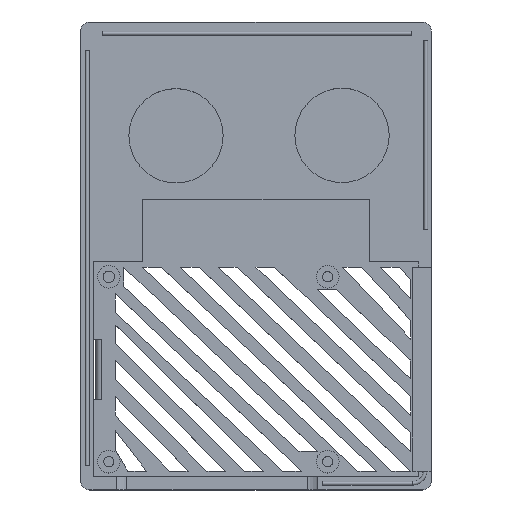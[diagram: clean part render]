
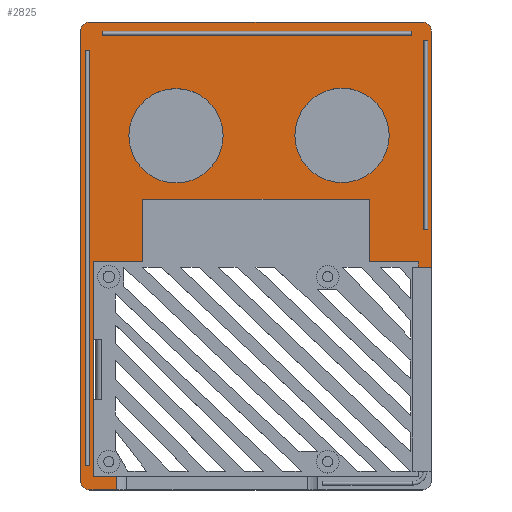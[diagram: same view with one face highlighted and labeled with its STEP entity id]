
A CAD part, top view. The second image highlights one B-rep face of the part: STEP entity #2825.
In plain terms, the highlighted planar face has unit normal (0, 0, 1).
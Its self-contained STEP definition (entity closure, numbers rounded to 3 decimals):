
#70=FACE_BOUND('',#436,.T.);
#71=FACE_BOUND('',#437,.T.);
#72=FACE_BOUND('',#438,.T.);
#73=FACE_BOUND('',#439,.T.);
#74=FACE_BOUND('',#440,.T.);
#141=CIRCLE('',#3003,2.5);
#148=CIRCLE('',#3015,2.5);
#149=CIRCLE('',#3017,12.5);
#151=CIRCLE('',#3021,12.5);
#158=CIRCLE('',#3033,2.5);
#244=FACE_OUTER_BOUND('',#435,.T.);
#435=EDGE_LOOP('',(#2178,#2179,#2180,#2181,#2182,#2183,#2184,#2185,#2186,
#2187,#2188,#2189,#2190,#2191,#2192,#2193,#2194));
#436=EDGE_LOOP('',(#2195,#2196,#2197,#2198));
#437=EDGE_LOOP('',(#2199,#2200,#2201,#2202));
#438=EDGE_LOOP('',(#2203,#2204,#2205,#2206));
#439=EDGE_LOOP('',(#2207));
#440=EDGE_LOOP('',(#2208));
#545=LINE('',#3974,#868);
#549=LINE('',#3983,#872);
#553=LINE('',#3990,#876);
#555=LINE('',#3994,#878);
#559=LINE('',#4005,#882);
#564=LINE('',#4016,#887);
#566=LINE('',#4020,#889);
#567=LINE('',#4022,#890);
#641=LINE('',#4217,#964);
#646=LINE('',#4228,#969);
#648=LINE('',#4232,#971);
#649=LINE('',#4234,#972);
#651=LINE('',#4242,#974);
#656=LINE('',#4254,#979);
#658=LINE('',#4257,#981);
#659=LINE('',#4259,#982);
#664=LINE('',#4281,#987);
#735=LINE('',#4456,#1058);
#744=LINE('',#4474,#1067);
#745=LINE('',#4476,#1068);
#746=LINE('',#4478,#1069);
#747=LINE('',#4479,#1070);
#748=LINE('',#4481,#1071);
#749=LINE('',#4483,#1072);
#750=LINE('',#4485,#1073);
#751=LINE('',#4486,#1074);
#868=VECTOR('',#3182,10.);
#872=VECTOR('',#3188,10.);
#876=VECTOR('',#3194,10.);
#878=VECTOR('',#3198,10.);
#882=VECTOR('',#3206,10.);
#887=VECTOR('',#3217,10.);
#889=VECTOR('',#3221,10.);
#890=VECTOR('',#3224,10.);
#964=VECTOR('',#3370,10.);
#969=VECTOR('',#3381,10.);
#971=VECTOR('',#3385,10.);
#972=VECTOR('',#3388,10.);
#974=VECTOR('',#3394,10.);
#979=VECTOR('',#3405,10.);
#981=VECTOR('',#3409,10.);
#982=VECTOR('',#3412,10.);
#987=VECTOR('',#3435,10.);
#1058=VECTOR('',#3568,10.);
#1067=VECTOR('',#3579,10.);
#1068=VECTOR('',#3580,10.);
#1069=VECTOR('',#3581,10.);
#1070=VECTOR('',#3582,10.);
#1071=VECTOR('',#3583,10.);
#1072=VECTOR('',#3584,10.);
#1073=VECTOR('',#3585,10.);
#1074=VECTOR('',#3586,10.);
#1191=VERTEX_POINT('',#3972);
#1192=VERTEX_POINT('',#3973);
#1195=VERTEX_POINT('',#3981);
#1196=VERTEX_POINT('',#3982);
#1199=VERTEX_POINT('',#3993);
#1203=VERTEX_POINT('',#4002);
#1204=VERTEX_POINT('',#4004);
#1207=VERTEX_POINT('',#4014);
#1208=VERTEX_POINT('',#4018);
#1292=VERTEX_POINT('',#4214);
#1293=VERTEX_POINT('',#4216);
#1296=VERTEX_POINT('',#4226);
#1297=VERTEX_POINT('',#4230);
#1300=VERTEX_POINT('',#4239);
#1301=VERTEX_POINT('',#4241);
#1304=VERTEX_POINT('',#4251);
#1305=VERTEX_POINT('',#4253);
#1306=VERTEX_POINT('',#4261);
#1307=VERTEX_POINT('',#4262);
#1313=VERTEX_POINT('',#4280);
#1315=VERTEX_POINT('',#4288);
#1316=VERTEX_POINT('',#4292);
#1318=VERTEX_POINT('',#4299);
#1327=VERTEX_POINT('',#4325);
#1328=VERTEX_POINT('',#4326);
#1394=VERTEX_POINT('',#4473);
#1395=VERTEX_POINT('',#4475);
#1396=VERTEX_POINT('',#4477);
#1397=VERTEX_POINT('',#4480);
#1398=VERTEX_POINT('',#4482);
#1399=VERTEX_POINT('',#4484);
#1451=EDGE_CURVE('',#1191,#1192,#545,.T.);
#1455=EDGE_CURVE('',#1195,#1196,#549,.T.);
#1459=EDGE_CURVE('',#1192,#1195,#553,.T.);
#1461=EDGE_CURVE('',#1199,#1191,#555,.T.);
#1466=EDGE_CURVE('',#1204,#1203,#559,.T.);
#1472=EDGE_CURVE('',#1203,#1207,#564,.T.);
#1474=EDGE_CURVE('',#1207,#1208,#566,.T.);
#1475=EDGE_CURVE('',#1208,#1204,#567,.T.);
#1568=EDGE_CURVE('',#1293,#1292,#641,.T.);
#1574=EDGE_CURVE('',#1292,#1296,#646,.T.);
#1576=EDGE_CURVE('',#1296,#1297,#648,.T.);
#1577=EDGE_CURVE('',#1297,#1293,#649,.T.);
#1580=EDGE_CURVE('',#1301,#1300,#651,.T.);
#1586=EDGE_CURVE('',#1305,#1304,#656,.T.);
#1588=EDGE_CURVE('',#1304,#1301,#658,.T.);
#1589=EDGE_CURVE('',#1300,#1305,#659,.T.);
#1590=EDGE_CURVE('',#1306,#1307,#141,.T.);
#1599=EDGE_CURVE('',#1307,#1313,#664,.T.);
#1603=EDGE_CURVE('',#1313,#1315,#148,.T.);
#1605=EDGE_CURVE('',#1316,#1316,#149,.T.);
#1608=EDGE_CURVE('',#1318,#1318,#151,.T.);
#1620=EDGE_CURVE('',#1327,#1328,#158,.T.);
#1686=EDGE_CURVE('',#1306,#1328,#735,.T.);
#1695=EDGE_CURVE('',#1196,#1394,#744,.T.);
#1696=EDGE_CURVE('',#1394,#1395,#745,.T.);
#1697=EDGE_CURVE('',#1395,#1396,#746,.T.);
#1698=EDGE_CURVE('',#1396,#1315,#747,.T.);
#1699=EDGE_CURVE('',#1327,#1397,#748,.T.);
#1700=EDGE_CURVE('',#1397,#1398,#749,.T.);
#1701=EDGE_CURVE('',#1398,#1399,#750,.T.);
#1702=EDGE_CURVE('',#1399,#1199,#751,.T.);
#2178=ORIENTED_EDGE('',*,*,#1455,.T.);
#2179=ORIENTED_EDGE('',*,*,#1695,.T.);
#2180=ORIENTED_EDGE('',*,*,#1696,.T.);
#2181=ORIENTED_EDGE('',*,*,#1697,.T.);
#2182=ORIENTED_EDGE('',*,*,#1698,.T.);
#2183=ORIENTED_EDGE('',*,*,#1603,.F.);
#2184=ORIENTED_EDGE('',*,*,#1599,.F.);
#2185=ORIENTED_EDGE('',*,*,#1590,.F.);
#2186=ORIENTED_EDGE('',*,*,#1686,.T.);
#2187=ORIENTED_EDGE('',*,*,#1620,.F.);
#2188=ORIENTED_EDGE('',*,*,#1699,.T.);
#2189=ORIENTED_EDGE('',*,*,#1700,.T.);
#2190=ORIENTED_EDGE('',*,*,#1701,.T.);
#2191=ORIENTED_EDGE('',*,*,#1702,.T.);
#2192=ORIENTED_EDGE('',*,*,#1461,.T.);
#2193=ORIENTED_EDGE('',*,*,#1451,.T.);
#2194=ORIENTED_EDGE('',*,*,#1459,.T.);
#2195=ORIENTED_EDGE('',*,*,#1466,.T.);
#2196=ORIENTED_EDGE('',*,*,#1472,.T.);
#2197=ORIENTED_EDGE('',*,*,#1474,.T.);
#2198=ORIENTED_EDGE('',*,*,#1475,.T.);
#2199=ORIENTED_EDGE('',*,*,#1568,.T.);
#2200=ORIENTED_EDGE('',*,*,#1574,.T.);
#2201=ORIENTED_EDGE('',*,*,#1576,.T.);
#2202=ORIENTED_EDGE('',*,*,#1577,.T.);
#2203=ORIENTED_EDGE('',*,*,#1586,.T.);
#2204=ORIENTED_EDGE('',*,*,#1588,.T.);
#2205=ORIENTED_EDGE('',*,*,#1580,.T.);
#2206=ORIENTED_EDGE('',*,*,#1589,.T.);
#2207=ORIENTED_EDGE('',*,*,#1608,.T.);
#2208=ORIENTED_EDGE('',*,*,#1605,.T.);
#2692=PLANE('',#3042);
#2825=ADVANCED_FACE('',(#244,#70,#71,#72,#73,#74),#2692,.T.);
#3003=AXIS2_PLACEMENT_3D('',#4263,#3415,#3416);
#3015=AXIS2_PLACEMENT_3D('',#4289,#3445,#3446);
#3017=AXIS2_PLACEMENT_3D('',#4293,#3450,#3451);
#3021=AXIS2_PLACEMENT_3D('',#4300,#3459,#3460);
#3033=AXIS2_PLACEMENT_3D('',#4327,#3488,#3489);
#3042=AXIS2_PLACEMENT_3D('',#4472,#3577,#3578);
#3182=DIRECTION('',(0.,1.,0.));
#3188=DIRECTION('',(0.,-1.,0.));
#3194=DIRECTION('',(1.,0.,0.));
#3198=DIRECTION('',(1.,0.,0.));
#3206=DIRECTION('',(1.,0.,0.));
#3217=DIRECTION('',(0.,-1.,0.));
#3221=DIRECTION('',(-1.,0.,0.));
#3224=DIRECTION('',(0.,1.,0.));
#3370=DIRECTION('',(1.,0.,0.));
#3381=DIRECTION('',(0.,-1.,0.));
#3385=DIRECTION('',(-1.,0.,0.));
#3388=DIRECTION('',(0.,1.,0.));
#3394=DIRECTION('',(0.,-1.,0.));
#3405=DIRECTION('',(0.,1.,0.));
#3409=DIRECTION('',(1.,0.,0.));
#3412=DIRECTION('',(-1.,0.,0.));
#3415=DIRECTION('center_axis',(0.,0.,
-1.));
#3416=DIRECTION('ref_axis',(-0.707,0.707,0.));
#3435=DIRECTION('',(1.,0.,0.));
#3445=DIRECTION('center_axis',(0.,0.,
-1.));
#3446=DIRECTION('ref_axis',(0.707,0.707,0.));
#3450=DIRECTION('center_axis',(0.,0.,
-1.));
#3451=DIRECTION('ref_axis',(-1.,0.,0.));
#3459=DIRECTION('center_axis',(0.,0.,
-1.));
#3460=DIRECTION('ref_axis',(-1.,0.,0.));
#3488=DIRECTION('center_axis',(0.,0.,-1.));
#3489=DIRECTION('ref_axis',(-0.707,-0.707,0.));
#3568=DIRECTION('',(0.,-1.,0.));
#3577=DIRECTION('center_axis',(0.,0.,1.));
#3578=DIRECTION('ref_axis',(1.,0.,0.));
#3579=DIRECTION('',(1.,0.,0.));
#3580=DIRECTION('',(0.,-1.,0.));
#3581=DIRECTION('',(1.,0.,0.));
#3582=DIRECTION('',(0.,1.,0.));
#3583=DIRECTION('',(1.,0.,0.));
#3584=DIRECTION('',(0.,1.,0.));
#3585=DIRECTION('',(-1.,0.,0.));
#3586=DIRECTION('',(0.,1.,0.));
#3972=CARTESIAN_POINT('',(-30.003,28.5,15.));
#3973=CARTESIAN_POINT('',(-30.003,45.,15.));
#3974=CARTESIAN_POINT('',(-30.003,14.25,15.));
#3981=CARTESIAN_POINT('',(29.997,45.,15.));
#3982=CARTESIAN_POINT('',(29.997,28.5,15.));
#3983=CARTESIAN_POINT('',(29.997,22.5,15.));
#3990=CARTESIAN_POINT('',(-15.002,45.,15.));
#3993=CARTESIAN_POINT('',(-43.,28.5,15.));
#3994=CARTESIAN_POINT('',(23.25,28.5,15.));
#4002=CARTESIAN_POINT('',(45.497,87.,15.));
#4004=CARTESIAN_POINT('',(44.497,87.,15.));
#4005=CARTESIAN_POINT('',(22.748,87.,15.));
#4014=CARTESIAN_POINT('',(45.497,37.,15.));
#4016=CARTESIAN_POINT('',(45.497,18.5,15.));
#4018=CARTESIAN_POINT('',(44.497,37.,15.));
#4020=CARTESIAN_POINT('',(22.248,37.,15.));
#4022=CARTESIAN_POINT('',(44.497,43.5,15.));
#4214=CARTESIAN_POINT('',(-44.25,84.483,15.));
#4216=CARTESIAN_POINT('',(-45.25,84.483,15.));
#4217=CARTESIAN_POINT('',(-22.125,84.483,15.));
#4226=CARTESIAN_POINT('',(-44.25,-25.517,15.));
#4228=CARTESIAN_POINT('',(-44.25,-12.758,15.));
#4230=CARTESIAN_POINT('',(-45.25,-25.517,15.));
#4232=CARTESIAN_POINT('',(-22.625,-25.517,15.));
#4234=CARTESIAN_POINT('',(-45.25,42.242,15.));
#4239=CARTESIAN_POINT('',(41.273,88.5,15.));
#4241=CARTESIAN_POINT('',(41.273,89.5,15.));
#4242=CARTESIAN_POINT('',(41.273,44.25,15.));
#4251=CARTESIAN_POINT('',(-40.727,89.5,15.));
#4253=CARTESIAN_POINT('',(-40.727,88.5,15.));
#4254=CARTESIAN_POINT('',(-40.727,44.75,15.));
#4257=CARTESIAN_POINT('',(20.636,89.5,15.));
#4259=CARTESIAN_POINT('',(-20.364,88.5,15.));
#4261=CARTESIAN_POINT('',(-46.5,89.5,15.));
#4262=CARTESIAN_POINT('',(-44.,92.,15.));
#4263=CARTESIAN_POINT('Origin',(-44.,89.5,15.));
#4280=CARTESIAN_POINT('',(44.,92.,15.));
#4281=CARTESIAN_POINT('',(-46.5,92.,15.));
#4288=CARTESIAN_POINT('',(46.5,89.5,15.));
#4289=CARTESIAN_POINT('Origin',(44.,89.5,15.));
#4292=CARTESIAN_POINT('',(-8.701,61.848,15.));
#4293=CARTESIAN_POINT('Origin',(-21.201,61.848,15.));
#4299=CARTESIAN_POINT('',(35.299,61.94,15.));
#4300=CARTESIAN_POINT('Origin',(22.799,61.94,15.));
#4325=CARTESIAN_POINT('',(-44.,-32.,15.));
#4326=CARTESIAN_POINT('',(-46.5,-29.5,15.));
#4327=CARTESIAN_POINT('Origin',(-44.,-29.5,15.));
#4456=CARTESIAN_POINT('',(-46.5,16.,15.));
#4472=CARTESIAN_POINT('Origin',(0.,0.,15.));
#4473=CARTESIAN_POINT('',(43.,28.5,15.));
#4474=CARTESIAN_POINT('',(23.25,28.5,15.));
#4475=CARTESIAN_POINT('',(43.,27.,15.));
#4476=CARTESIAN_POINT('',(43.,-16.,15.));
#4477=CARTESIAN_POINT('',(46.5,27.,15.));
#4478=CARTESIAN_POINT('',(23.25,27.,15.));
#4479=CARTESIAN_POINT('',(46.5,32.,15.));
#4480=CARTESIAN_POINT('',(-37.007,-32.,15.));
#4481=CARTESIAN_POINT('',(-23.25,-32.,15.));
#4482=CARTESIAN_POINT('',(-37.007,-28.5,15.));
#4483=CARTESIAN_POINT('',(-37.007,-32.,15.));
#4484=CARTESIAN_POINT('',(-43.,-28.5,15.));
#4485=CARTESIAN_POINT('',(-23.25,-28.5,15.));
#4486=CARTESIAN_POINT('',(-43.,16.,15.));
